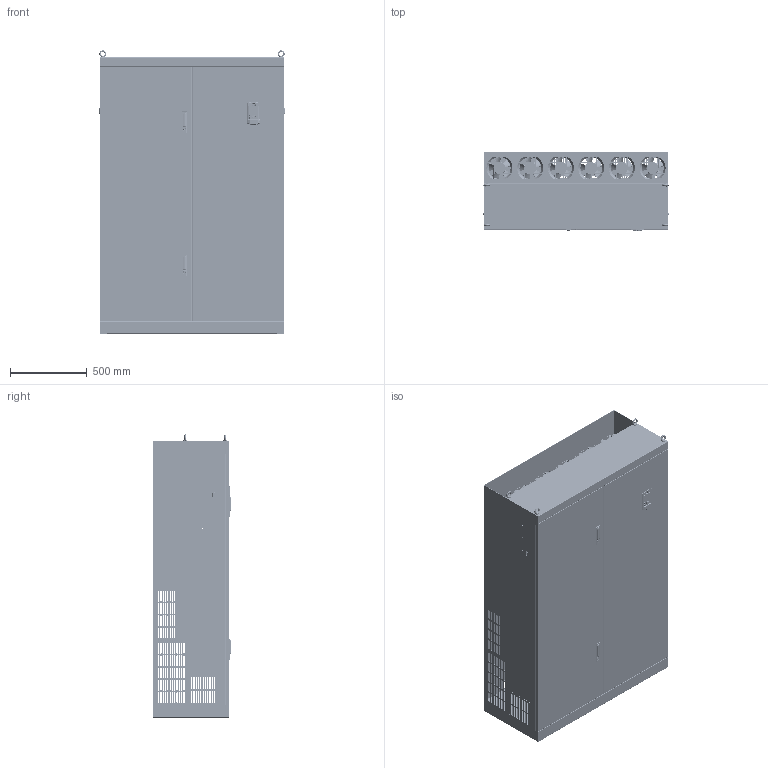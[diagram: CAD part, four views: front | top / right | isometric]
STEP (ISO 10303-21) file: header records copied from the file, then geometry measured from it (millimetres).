
FILE_DESCRIPTION((''),'2;1');
FILE_NAME('00-KC500-800_ASM','2024-08-14T15:43:29',('LazeTree'),(''),'CREO PARAMETRIC BY PTC INC, 2022073','CREO PARAMETRIC BY PTC INC, 2022073','');
FILE_SCHEMA(('AUTOMOTIVE_DESIGN { 1 0 10303 214 1 1 1 1 }'));
Products named in the file (105): KC500-800-01-01-01; KC500-800-01-01-01_ASM; KC500-800-01-01-02; S-M4-ZC; KC500-800-01-01-02_ASM; KC500-800-01-01-03; KC500-800-01-01-03_ASM; KC500-800-01-01-04; BSO-3R5M3-22-ZC; KC500-800-01-01-04_ASM; KC500-800-01-01-05; M10_GB13681; KC500-800-01-01-05_ASM; KC500-800-01-01-07; S-M6-ZC; KC500-800-01-01-07_ASM; KC500-800-01-01-09; KC500-800-01-01-09_ASM; KC500-800-01-01-11; KC500-800-01-01-13; KC500-800-01-01-15; KC500-800-01-01-15_ASM; DIAOHUANZHIJIA-L-1_1_1_1; DIAOHUANZHIJIA-L-2_1_1_1; DIAOHUANZHIJIA-L-3_1_1_1; DIAOHUANZHIJIA-L-4_1_1_1; DIAOHUANZHIJIA-L-5_1_1_1; DIAOHUANZHIJIA-L_ASM; DIAOHUANZHIJIA-R-1_1_1_1; DIAOHUANZHIJIA-R-2_1_1_1; DIAOHUANZHIJIA-R-3_1_1_1; DIAOHUANZHIJIA-R-4_1_1_1; DIAOHUANZHIJIA-R-5_1_1_1; DIAOHUANZHIJIA-R_ASM; GB12617-90_4X8_30-R0_10; KC500-800-01-01_ASM; KC500-800-01-02; KC500-800-01-02_ASM; KC500-800-01-04; S-M8-ZC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
Assembly tree (292 placements, depth 5):
  00-KC500-800_ASM
    KC500-800-01_ASM
      KC500-800-01-01_ASM
        KC500-800-01-01-01_ASM
          KC500-800-01-01-01
        KC500-800-01-01-02_ASM
          KC500-800-01-01-02
          S-M4-ZC  x4
        KC500-800-01-01-03_ASM
          KC500-800-01-01-03
          S-M4-ZC  x4
        KC500-800-01-01-04_ASM
          KC500-800-01-01-04
          BSO-3R5M3-22-ZC  x16
        KC500-800-01-01-05_ASM
          KC500-800-01-01-05
          M10_GB13681  x4
        KC500-800-01-01-07_ASM  x2
          KC500-800-01-01-07
          S-M6-ZC
        KC500-800-01-01-09_ASM  x8
          KC500-800-01-01-09
          S-M6-ZC
        KC500-800-01-01-11  x2
        KC500-800-01-01-13
        KC500-800-01-01-15_ASM
          KC500-800-01-01-15
          S-M6-ZC  x2
        DIAOHUANZHIJIA-L_ASM  x2
          DIAOHUANZHIJIA-L-1_1_1_1
          DIAOHUANZHIJIA-L-2_1_1_1
          DIAOHUANZHIJIA-L-3_1_1_1
          DIAOHUANZHIJIA-L-4_1_1_1
          DIAOHUANZHIJIA-L-5_1_1_1
        DIAOHUANZHIJIA-R_ASM  x2
          DIAOHUANZHIJIA-R-1_1_1_1
          DIAOHUANZHIJIA-R-2_1_1_1
          DIAOHUANZHIJIA-R-3_1_1_1
          DIAOHUANZHIJIA-R-4_1_1_1
          DIAOHUANZHIJIA-R-5_1_1_1
        GB12617-90_4X8_30-R0_10  x32
      KC500-800-01-02_ASM  x2
        KC500-800-01-02
        S-M4-ZC
      KC500-800-01-04_ASM
        KC500-800-01-04
        S-M6-ZC  x4
        S-M8-ZC  x3
      KC500-800-01-05_ASM
        KC500-800-01-05
        S-M6-ZC  x6
      KC500-800-01-06_ASM
        KC500-800-01-06
        S-M6-ZC  x6
      KC500-800-01-07_ASM
        KC500-800-01-07
      KC500-800-01-08_ASM
        KC500-800-01-08
        S-M5-ZC  x8
        BSO-3R5M3-10-ZC  x7
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Bounding box: 1207 x 514.3 x 1845 mm (x, y, z)
Volume: 21837548.7 mm3; surface area: 22286190.2 mm2
Topology: 334 solids, 338 shells, 43805 faces, 123812 edges, 83325 vertices
Faces by surface type: plane 37203, cylinder 4546, cone 1380, bspline 399, torus 233, sphere 36, extrusion 8
Entity records: 454811 total; most frequent: CARTESIAN_POINT 76836, ORIENTED_EDGE 57820, DIRECTION 57622, PRESENTATION_STYLE_ASSIGNMENT 29112, STYLED_ITEM 28961, EDGE_CURVE 28912, CURVE_STYLE 28900, VECTOR 23604
